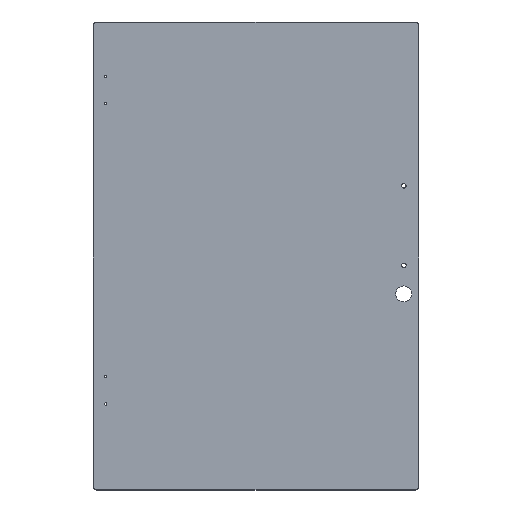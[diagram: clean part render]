
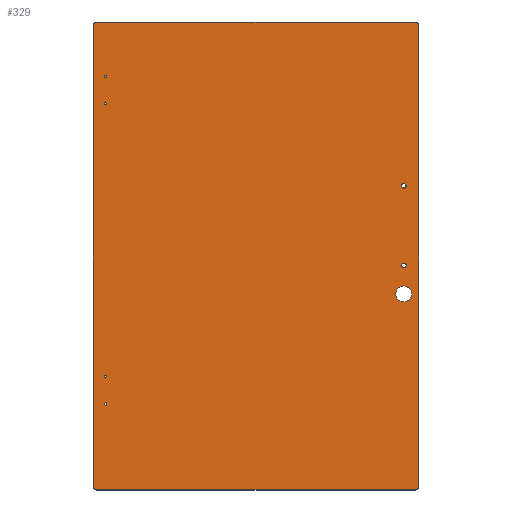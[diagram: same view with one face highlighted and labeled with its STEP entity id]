
A CAD part, top view. The second image highlights one B-rep face of the part: STEP entity #329.
In plain terms, the highlighted planar face has unit normal (0, 0, 1).
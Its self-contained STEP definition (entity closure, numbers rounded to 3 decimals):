
#15=FACE_BOUND('',#55,.T.);
#16=FACE_BOUND('',#56,.T.);
#17=FACE_BOUND('',#57,.T.);
#18=FACE_BOUND('',#58,.T.);
#19=FACE_BOUND('',#59,.T.);
#20=FACE_BOUND('',#60,.T.);
#21=FACE_BOUND('',#61,.T.);
#30=PLANE('',#362);
#37=FACE_OUTER_BOUND('',#54,.T.);
#54=EDGE_LOOP('',(#234,#235,#236,#237,#238,#239,#240,#241));
#55=EDGE_LOOP('',(#242));
#56=EDGE_LOOP('',(#243));
#57=EDGE_LOOP('',(#244));
#58=EDGE_LOOP('',(#245));
#59=EDGE_LOOP('',(#246));
#60=EDGE_LOOP('',(#247));
#61=EDGE_LOOP('',(#248));
#85=LINE('',#512,#108);
#88=LINE('',#518,#111);
#89=LINE('',#522,#112);
#90=LINE('',#526,#113);
#108=VECTOR('',#409,10.);
#111=VECTOR('',#414,10.);
#112=VECTOR('',#417,10.);
#113=VECTOR('',#420,10.);
#129=CIRCLE('',#359,5.);
#131=CIRCLE('',#363,5.);
#132=CIRCLE('',#364,5.);
#133=CIRCLE('',#365,5.);
#134=CIRCLE('',#366,3.1);
#135=CIRCLE('',#367,3.1);
#136=CIRCLE('',#368,11.113);
#137=CIRCLE('',#369,1.666);
#138=CIRCLE('',#370,1.666);
#139=CIRCLE('',#371,1.666);
#140=CIRCLE('',#372,1.666);
#151=VERTEX_POINT('',#502);
#152=VERTEX_POINT('',#503);
#155=VERTEX_POINT('',#511);
#157=VERTEX_POINT('',#517);
#158=VERTEX_POINT('',#519);
#159=VERTEX_POINT('',#521);
#160=VERTEX_POINT('',#523);
#161=VERTEX_POINT('',#525);
#162=VERTEX_POINT('',#528);
#163=VERTEX_POINT('',#530);
#164=VERTEX_POINT('',#532);
#165=VERTEX_POINT('',#534);
#166=VERTEX_POINT('',#536);
#167=VERTEX_POINT('',#538);
#168=VERTEX_POINT('',#540);
#181=EDGE_CURVE('',#151,#152,#129,.T.);
#185=EDGE_CURVE('',#155,#152,#85,.F.);
#188=EDGE_CURVE('',#151,#157,#88,.T.);
#189=EDGE_CURVE('',#158,#157,#131,.T.);
#190=EDGE_CURVE('',#158,#159,#89,.T.);
#191=EDGE_CURVE('',#160,#159,#132,.T.);
#192=EDGE_CURVE('',#160,#161,#90,.T.);
#193=EDGE_CURVE('',#155,#161,#133,.T.);
#194=EDGE_CURVE('',#162,#162,#134,.T.);
#195=EDGE_CURVE('',#163,#163,#135,.T.);
#196=EDGE_CURVE('',#164,#164,#136,.T.);
#197=EDGE_CURVE('',#165,#165,#137,.T.);
#198=EDGE_CURVE('',#166,#166,#138,.T.);
#199=EDGE_CURVE('',#167,#167,#139,.T.);
#200=EDGE_CURVE('',#168,#168,#140,.T.);
#234=ORIENTED_EDGE('',*,*,#181,.F.);
#235=ORIENTED_EDGE('',*,*,#188,.T.);
#236=ORIENTED_EDGE('',*,*,#189,.F.);
#237=ORIENTED_EDGE('',*,*,#190,.T.);
#238=ORIENTED_EDGE('',*,*,#191,.F.);
#239=ORIENTED_EDGE('',*,*,#192,.T.);
#240=ORIENTED_EDGE('',*,*,#193,.F.);
#241=ORIENTED_EDGE('',*,*,#185,.T.);
#242=ORIENTED_EDGE('',*,*,#194,.T.);
#243=ORIENTED_EDGE('',*,*,#195,.T.);
#244=ORIENTED_EDGE('',*,*,#196,.T.);
#245=ORIENTED_EDGE('',*,*,#197,.T.);
#246=ORIENTED_EDGE('',*,*,#198,.T.);
#247=ORIENTED_EDGE('',*,*,#199,.T.);
#248=ORIENTED_EDGE('',*,*,#200,.T.);
#329=ADVANCED_FACE('',(#37,#15,#16,#17,#18,#19,#20,#21),#30,.T.);
#359=AXIS2_PLACEMENT_3D('',#504,#401,#402);
#362=AXIS2_PLACEMENT_3D('',#516,#412,#413);
#363=AXIS2_PLACEMENT_3D('',#520,#415,#416);
#364=AXIS2_PLACEMENT_3D('',#524,#418,#419);
#365=AXIS2_PLACEMENT_3D('',#527,#421,#422);
#366=AXIS2_PLACEMENT_3D('',#529,#423,#424);
#367=AXIS2_PLACEMENT_3D('',#531,#425,#426);
#368=AXIS2_PLACEMENT_3D('',#533,#427,#428);
#369=AXIS2_PLACEMENT_3D('',#535,#429,#430);
#370=AXIS2_PLACEMENT_3D('',#537,#431,#432);
#371=AXIS2_PLACEMENT_3D('',#539,#433,#434);
#372=AXIS2_PLACEMENT_3D('',#541,#435,#436);
#401=DIRECTION('center_axis',(0.,0.,-1.));
#402=DIRECTION('ref_axis',(0.707,-0.707,0.));
#409=DIRECTION('',(-1.,0.,0.));
#412=DIRECTION('center_axis',(0.,0.,1.));
#413=DIRECTION('ref_axis',(1.,0.,0.));
#414=DIRECTION('',(0.,1.,0.));
#415=DIRECTION('center_axis',(0.,0.,-1.));
#416=DIRECTION('ref_axis',(0.707,0.707,0.));
#417=DIRECTION('',(-1.,0.,0.));
#418=DIRECTION('center_axis',(0.,0.,-1.));
#419=DIRECTION('ref_axis',(-0.707,0.707,0.));
#420=DIRECTION('',(0.,-1.,0.));
#421=DIRECTION('center_axis',(0.,0.,-1.));
#422=DIRECTION('ref_axis',(-0.707,-0.707,0.));
#423=DIRECTION('center_axis',(0.,0.,-1.));
#424=DIRECTION('ref_axis',(-1.,0.,0.));
#425=DIRECTION('center_axis',(0.,0.,-1.));
#426=DIRECTION('ref_axis',(-1.,0.,0.));
#427=DIRECTION('center_axis',(0.,0.,-1.));
#428=DIRECTION('ref_axis',(-1.,0.,0.));
#429=DIRECTION('center_axis',(0.,0.,-1.));
#430=DIRECTION('ref_axis',(1.,0.,0.));
#431=DIRECTION('center_axis',(0.,0.,-1.));
#432=DIRECTION('ref_axis',(1.,0.,0.));
#433=DIRECTION('center_axis',(0.,0.,-1.));
#434=DIRECTION('ref_axis',(1.,0.,0.));
#435=DIRECTION('center_axis',(0.,0.,-1.));
#436=DIRECTION('ref_axis',(1.,0.,0.));
#502=CARTESIAN_POINT('',(454.66,77.7,5.));
#503=CARTESIAN_POINT('',(449.66,72.7,5.));
#504=CARTESIAN_POINT('Origin',(449.66,77.7,5.));
#511=CARTESIAN_POINT('',(5.,72.7,5.));
#512=CARTESIAN_POINT('',(113.665,72.7,5.));
#516=CARTESIAN_POINT('Origin',(227.33,381.,5.));
#517=CARTESIAN_POINT('',(454.66,722.,5.));
#518=CARTESIAN_POINT('',(454.66,0.,5.));
#519=CARTESIAN_POINT('',(449.66,727.,5.));
#520=CARTESIAN_POINT('Origin',(449.66,722.,5.));
#521=CARTESIAN_POINT('',(5.,727.,5.));
#522=CARTESIAN_POINT('',(340.995,727.,5.));
#523=CARTESIAN_POINT('',(0.,722.,5.));
#524=CARTESIAN_POINT('Origin',(5.,722.,5.));
#525=CARTESIAN_POINT('',(0.,77.7,5.));
#526=CARTESIAN_POINT('',(0.,762.,5.));
#527=CARTESIAN_POINT('Origin',(5.,77.7,5.));
#528=CARTESIAN_POINT('',(437.1,497.95,5.));
#529=CARTESIAN_POINT('Origin',(434.,497.95,5.));
#530=CARTESIAN_POINT('',(437.1,386.825,5.));
#531=CARTESIAN_POINT('Origin',(434.,386.825,5.));
#532=CARTESIAN_POINT('',(445.113,346.825,5.));
#533=CARTESIAN_POINT('Origin',(434.,346.825,5.));
#534=CARTESIAN_POINT('',(15.334,650.95,5.));
#535=CARTESIAN_POINT('Origin',(17.,650.95,5.));
#536=CARTESIAN_POINT('',(15.334,192.95,5.));
#537=CARTESIAN_POINT('Origin',(17.,192.95,5.));
#538=CARTESIAN_POINT('',(15.334,612.85,5.));
#539=CARTESIAN_POINT('Origin',(17.,612.85,5.));
#540=CARTESIAN_POINT('',(15.334,231.05,5.));
#541=CARTESIAN_POINT('Origin',(17.,231.05,5.));
